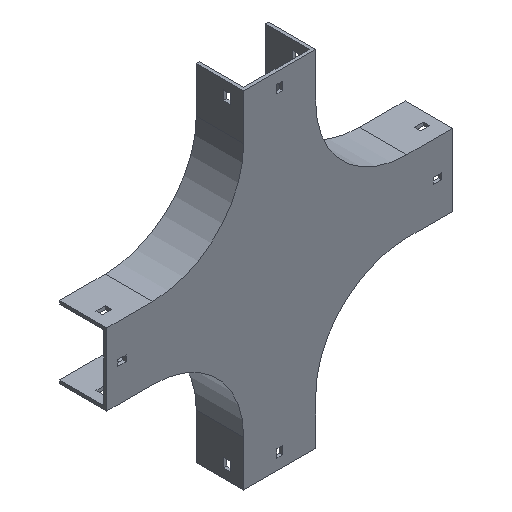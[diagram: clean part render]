
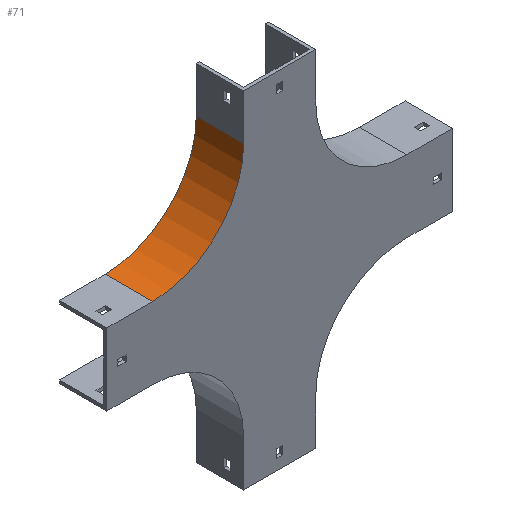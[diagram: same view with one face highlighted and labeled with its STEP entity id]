
A CAD part, isometric view. The second image highlights one B-rep face of the part: STEP entity #71.
In plain terms, the highlighted cylindrical face has radius 100 mm (diameter 200 mm), a partial arc.
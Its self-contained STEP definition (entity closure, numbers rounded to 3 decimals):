
#11 = FACE_OUTER_BOUND ( 'NONE', #1368, .T. ) ;
#58 = VERTEX_POINT ( 'NONE', #2199 ) ;
#71 = ADVANCED_FACE ( 'NONE', ( #11 ), #2189, .F. ) ;
#72 = CARTESIAN_POINT ( 'NONE',  ( -279., 52., -100. ) ) ;
#114 = CIRCLE ( 'NONE', #2360, 100. ) ;
#134 = DIRECTION ( 'NONE',  ( 0., -1., 0. ) ) ;
#259 = DIRECTION ( 'NONE',  ( 0., 0., 1. ) ) ;
#264 = VERTEX_POINT ( 'NONE', #416 ) ;
#416 = CARTESIAN_POINT ( 'NONE',  ( -179., 52., 0. ) ) ;
#472 = ORIENTED_EDGE ( 'NONE', *, *, #2356, .F. ) ;
#687 = DIRECTION ( 'NONE',  ( 0., -1., 0. ) ) ;
#748 = AXIS2_PLACEMENT_3D ( 'NONE', #2629, #687, #259 ) ;
#930 = CIRCLE ( 'NONE', #748, 100. ) ;
#972 = CARTESIAN_POINT ( 'NONE',  ( -279., 52., 0. ) ) ;
#1138 = CARTESIAN_POINT ( 'NONE',  ( -279., 52., 0. ) ) ;
#1232 = EDGE_CURVE ( 'NONE', #264, #1434, #2405, .T. ) ;
#1368 = EDGE_LOOP ( 'NONE', ( #2202, #2697, #472, #2540 ) ) ;
#1414 = DIRECTION ( 'NONE',  ( 0., -1., 0. ) ) ;
#1425 = LINE ( 'NONE', #2267, #2217 ) ;
#1434 = VERTEX_POINT ( 'NONE', #2169 ) ;
#1799 = EDGE_CURVE ( 'NONE', #58, #1434, #930, .T. ) ;
#1819 = DIRECTION ( 'NONE',  ( 0., -1., 0. ) ) ;
#1996 = DIRECTION ( 'NONE',  ( 0., 0., -1. ) ) ;
#2169 = CARTESIAN_POINT ( 'NONE',  ( -179., 0., 0. ) ) ;
#2177 = DIRECTION ( 'NONE',  ( 0., -1., 0. ) ) ;
#2189 = CYLINDRICAL_SURFACE ( 'NONE', #2303, 100. ) ;
#2199 = CARTESIAN_POINT ( 'NONE',  ( -279., 0., -100. ) ) ;
#2200 = EDGE_CURVE ( 'NONE', #2624, #58, #1425, .T. ) ;
#2202 = ORIENTED_EDGE ( 'NONE', *, *, #1799, .T. ) ;
#2217 = VECTOR ( 'NONE', #134, 1000. ) ;
#2253 = DIRECTION ( 'NONE',  ( 0., 0., 1. ) ) ;
#2267 = CARTESIAN_POINT ( 'NONE',  ( -279., 52., -100. ) ) ;
#2297 = VECTOR ( 'NONE', #1819, 1000. ) ;
#2303 = AXIS2_PLACEMENT_3D ( 'NONE', #1138, #2177, #1996 ) ;
#2356 = EDGE_CURVE ( 'NONE', #2624, #264, #114, .T. ) ;
#2360 = AXIS2_PLACEMENT_3D ( 'NONE', #972, #1414, #2253 ) ;
#2405 = LINE ( 'NONE', #2477, #2297 ) ;
#2477 = CARTESIAN_POINT ( 'NONE',  ( -179., 52., 0. ) ) ;
#2540 = ORIENTED_EDGE ( 'NONE', *, *, #2200, .T. ) ;
#2624 = VERTEX_POINT ( 'NONE', #72 ) ;
#2629 = CARTESIAN_POINT ( 'NONE',  ( -279., 0., 0. ) ) ;
#2697 = ORIENTED_EDGE ( 'NONE', *, *, #1232, .F. ) ;
